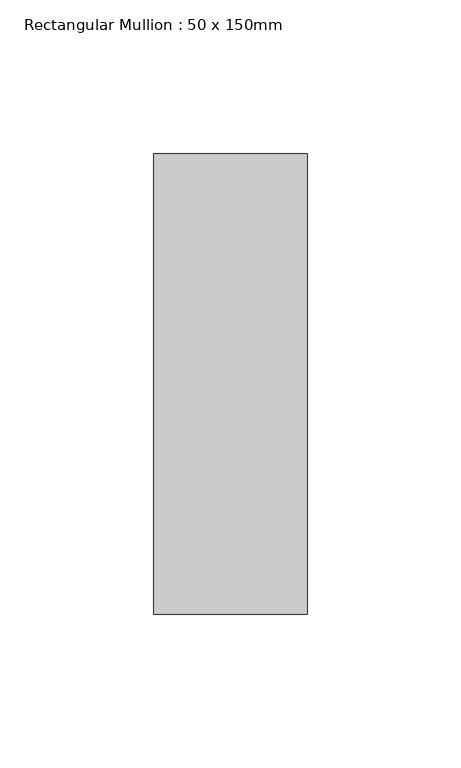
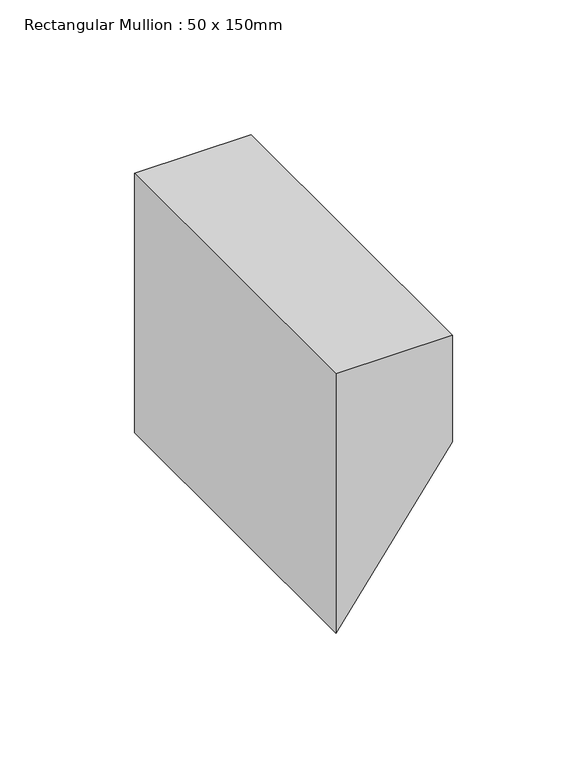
"""IFC4 building model written with IfcOpenShell, lengths in millimetres: member geometry, Rectangular Mullion : 50 x 150mm."""

from ifc_helpers import new_model, si_unit, frame, origin, place, context, project, spatial, polyline, outline, extrude, source, transform, mapped, element, save


def rectangular_mullion_50_x_150mm_1a5d4ec7(model_context):
    return source(origin(), model_context, "Body", "SweptSolid", [
        extrude(outline(polyline([(0.0, 0.0), (0.0, -50.0), (-117.8986058, -50.0), (-48.4953302, 0.0), (0.0, 0.0)])), frame((0.0, -75.0, 0.0), z_axis=(0.0, 1.0, 0.0), x_axis=(0.0, 0.0, 1.0)), (0.0, 0.0, 1.0), 150.0),
    ])


if __name__ == "__main__":
    model = new_model("IFC4")
    model_context = context("Model", 3, world=origin())
    ifc_project = project(units=[si_unit("LENGTHUNIT", "METRE", prefix="MILLI")], contexts=[model_context])
    site = spatial("IfcSite", under=ifc_project)
    building = spatial("IfcBuilding", under=site)
    placement = place(None, origin())
    rectangular_mullion_50_x_150mm_shape = rectangular_mullion_50_x_150mm_1a5d4ec7(model_context)
    element("IfcMember", 1, ObjectType="Rectangular Mullion : 50 x 150mm", at=placement, inside=building, context=model_context, shape_type="MappedRepresentation", body=[
        mapped(rectangular_mullion_50_x_150mm_shape, transform((0.0, 0.0, 0.0), x_axis=(1.0, 0.0, 0.0), y_axis=(0.0, 1.0, 0.0), z_axis=(0.0, 0.0, 1.0))),
    ])
    save(model, "model.ifc")
